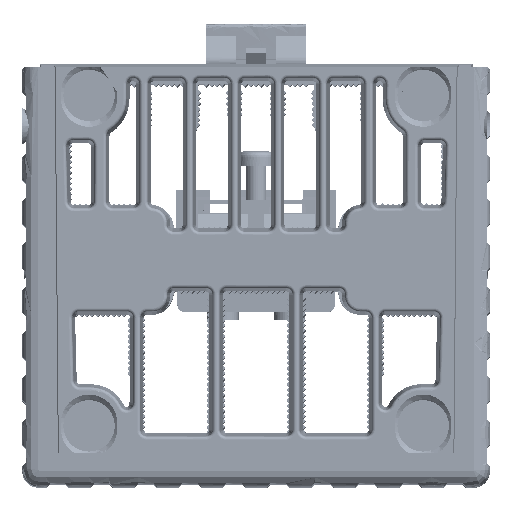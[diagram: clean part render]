
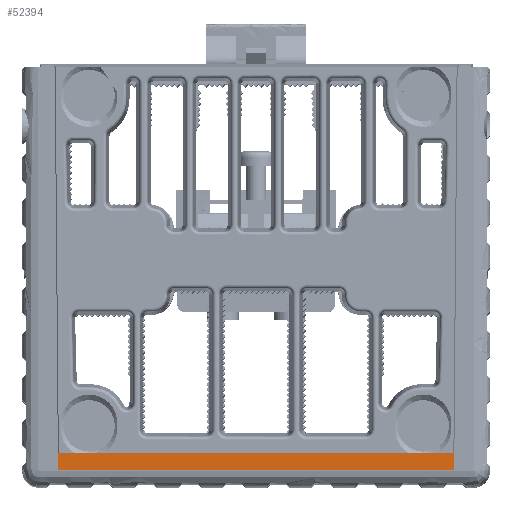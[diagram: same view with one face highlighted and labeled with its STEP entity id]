
A CAD part, top view. The second image highlights one B-rep face of the part: STEP entity #52394.
In plain terms, the highlighted planar face has unit normal (0, 0, 1).
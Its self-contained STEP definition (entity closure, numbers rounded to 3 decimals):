
#6767=LINE('',#92942,#12417);
#7278=LINE('',#95103,#12928);
#7280=LINE('',#95107,#12930);
#7281=LINE('',#95109,#12931);
#12417=VECTOR('',#64858,1000.);
#12928=VECTOR('',#66373,1000.);
#12930=VECTOR('',#66377,1000.);
#12931=VECTOR('',#66380,1000.);
#15127=PLANE('',#55535);
#28541=ORIENTED_EDGE('',*,*,#37503,.T.);
#28542=ORIENTED_EDGE('',*,*,#37500,.F.);
#28543=ORIENTED_EDGE('',*,*,#36743,.F.);
#28544=ORIENTED_EDGE('',*,*,#37502,.F.);
#36743=EDGE_CURVE('',#42780,#42781,#6767,.T.);
#37500=EDGE_CURVE('',#42781,#43074,#7278,.T.);
#37502=EDGE_CURVE('',#43075,#42780,#7280,.T.);
#37503=EDGE_CURVE('',#43075,#43074,#7281,.T.);
#42780=VERTEX_POINT('',#92941);
#42781=VERTEX_POINT('',#92943);
#43074=VERTEX_POINT('',#95102);
#43075=VERTEX_POINT('',#95106);
#46498=EDGE_LOOP('',(#28541,#28542,#28543,#28544));
#49318=FACE_BOUND('',#46498,.T.);
#52394=ADVANCED_FACE('',(#49318),#15127,.T.);
#55535=AXIS2_PLACEMENT_3D('',#95108,#66378,#66379);
#64858=DIRECTION('',(-1.,0.,0.));
#66373=DIRECTION('',(-0.008,1.,0.));
#66377=DIRECTION('',(-0.008,-1.,0.));
#66378=DIRECTION('',(0.,0.,1.));
#66379=DIRECTION('',(-1.,0.,0.));
#66380=DIRECTION('',(-1.,0.,0.));
#92941=CARTESIAN_POINT('',(781.385,208.912,37.));
#92942=CARTESIAN_POINT('',(783.362,208.912,37.));
#92943=CARTESIAN_POINT('',(722.085,208.912,37.));
#95102=CARTESIAN_POINT('',(722.064,211.412,37.));
#95103=CARTESIAN_POINT('',(721.835,239.058,37.));
#95106=CARTESIAN_POINT('',(781.405,211.412,37.));
#95107=CARTESIAN_POINT('',(781.635,239.058,37.));
#95108=CARTESIAN_POINT('',(781.405,211.412,37.));
#95109=CARTESIAN_POINT('',(751.735,211.412,37.));
